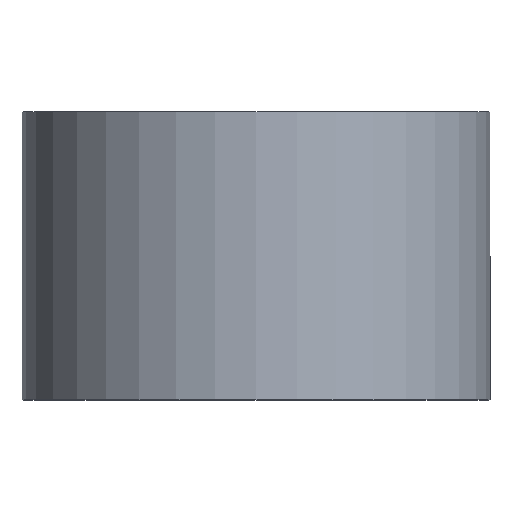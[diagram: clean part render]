
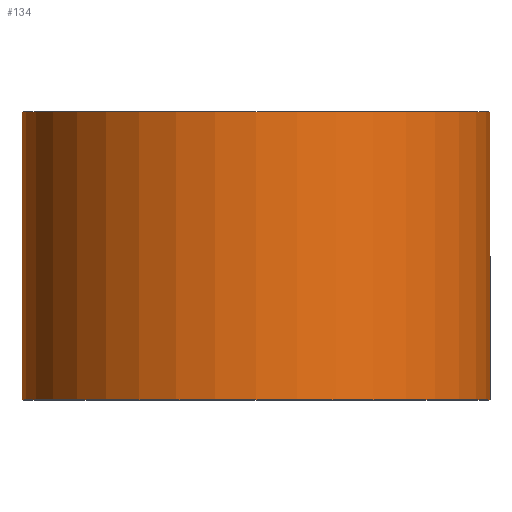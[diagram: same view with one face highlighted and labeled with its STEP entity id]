
A CAD part, top view. The second image highlights one B-rep face of the part: STEP entity #134.
In plain terms, the highlighted cylindrical face has radius 13 mm (diameter 26 mm), a partial arc.
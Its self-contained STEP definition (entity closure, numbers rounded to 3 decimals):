
#8 = DIRECTION ( 'NONE',  ( -1., 0., 0. ) ) ;
#10 = FACE_OUTER_BOUND ( 'NONE', #92, .T. ) ;
#15 = ORIENTED_EDGE ( 'NONE', *, *, #185, .F. ) ;
#33 = DIRECTION ( 'NONE',  ( 0., 1., 0. ) ) ;
#36 = CIRCLE ( 'NONE', #205, 13. ) ;
#47 = DIRECTION ( 'NONE',  ( 0., 1., 0. ) ) ;
#57 = CARTESIAN_POINT ( 'NONE',  ( 13., 16., 0. ) ) ;
#69 = AXIS2_PLACEMENT_3D ( 'NONE', #199, #129, #103 ) ;
#82 = ORIENTED_EDGE ( 'NONE', *, *, #196, .F. ) ;
#88 = EDGE_CURVE ( 'NONE', #170, #137, #141, .T. ) ;
#92 = EDGE_LOOP ( 'NONE', ( #292, #253, #82, #15 ) ) ;
#103 = DIRECTION ( 'NONE',  ( -1., 0., 0. ) ) ;
#113 = CARTESIAN_POINT ( 'NONE',  ( 13., 0., 0. ) ) ;
#114 = VERTEX_POINT ( 'NONE', #178 ) ;
#129 = DIRECTION ( 'NONE',  ( 0., 1., 0. ) ) ;
#130 = EDGE_CURVE ( 'NONE', #114, #170, #267, .T. ) ;
#134 = ADVANCED_FACE ( 'NONE', ( #10 ), #228, .T. ) ;
#137 = VERTEX_POINT ( 'NONE', #57 ) ;
#141 = LINE ( 'NONE', #220, #149 ) ;
#149 = VECTOR ( 'NONE', #33, 1000. ) ;
#170 = VERTEX_POINT ( 'NONE', #113 ) ;
#174 = AXIS2_PLACEMENT_3D ( 'NONE', #200, #285, #8 ) ;
#178 = CARTESIAN_POINT ( 'NONE',  ( -13., 0., 0. ) ) ;
#185 = EDGE_CURVE ( 'NONE', #114, #260, #194, .T. ) ;
#187 = CARTESIAN_POINT ( 'NONE',  ( 0., 16., 0. ) ) ;
#194 = LINE ( 'NONE', #212, #249 ) ;
#196 = EDGE_CURVE ( 'NONE', #260, #137, #36, .T. ) ;
#199 = CARTESIAN_POINT ( 'NONE',  ( 0., 0., 0. ) ) ;
#200 = CARTESIAN_POINT ( 'NONE',  ( 0., 0., 0. ) ) ;
#205 = AXIS2_PLACEMENT_3D ( 'NONE', #187, #47, #255 ) ;
#212 = CARTESIAN_POINT ( 'NONE',  ( -13., 0., 0. ) ) ;
#220 = CARTESIAN_POINT ( 'NONE',  ( 13., 0., 0. ) ) ;
#228 = CYLINDRICAL_SURFACE ( 'NONE', #174, 13. ) ;
#249 = VECTOR ( 'NONE', #251, 1000. ) ;
#251 = DIRECTION ( 'NONE',  ( 0., 1., 0. ) ) ;
#253 = ORIENTED_EDGE ( 'NONE', *, *, #88, .T. ) ;
#254 = CARTESIAN_POINT ( 'NONE',  ( -13., 16., 0. ) ) ;
#255 = DIRECTION ( 'NONE',  ( -1., 0., 0. ) ) ;
#260 = VERTEX_POINT ( 'NONE', #254 ) ;
#267 = CIRCLE ( 'NONE', #69, 13. ) ;
#285 = DIRECTION ( 'NONE',  ( 0., 1., 0. ) ) ;
#292 = ORIENTED_EDGE ( 'NONE', *, *, #130, .T. ) ;
